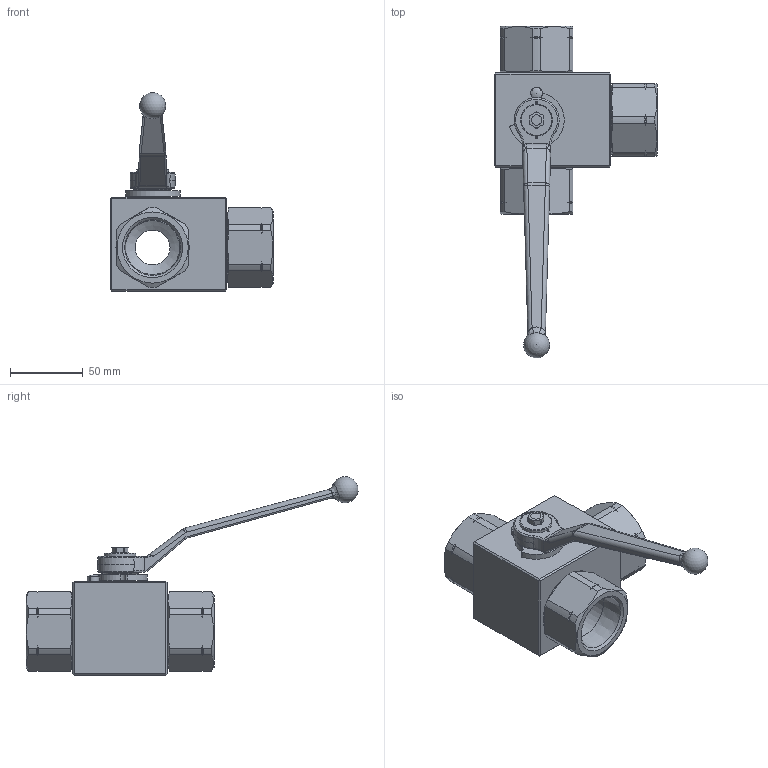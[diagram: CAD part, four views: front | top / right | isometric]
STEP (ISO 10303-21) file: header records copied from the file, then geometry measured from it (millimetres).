
FILE_DESCRIPTION( ( 'Unknown' ), '1' );
FILE_NAME( 'H:/PISTER/3D-MODELLE/BK3-Edelstahl stp/BK3-Edelst DN25 5_4 NPT.stp', 'Unknown', ( 'Unknown' ), ( 'Unknown' ), 'PSStep 14.0', 'Unknown', ' ' );
FILE_SCHEMA( ( 'AUTOMOTIVE_DESIGN { 1 0 10303 214 1 1 1 1 }' ) );
Length unit declared in the file: millimetre
Products named in the file (12): Assem1; 58-28740-10-oa0; 10-025-001-oa2; 56-032-125-oa6; 06-025-009-oa8; 58-0440-007; 58-0933-248; Griff_SW14; 04-025-045-oa9; 04-025-045-oa10; 04-025-045-oa11; 01-025-084-oa12
Assembly tree (11 placements, depth 2):
  Assem1
    58-28740-10-oa0
    10-025-001-oa2
    56-032-125-oa6
    06-025-009-oa8
    58-0440-007
    58-0933-248
    Griff_SW14
    04-025-045-oa9
    04-025-045-oa10
    04-025-045-oa11
    01-025-084-oa12
Bounding box: 112.25 x 228.68 x 136.9 mm (x, y, z)
Volume: 341416.7 mm3; surface area: 93219.9 mm2
Topology: 11 solids, 11 shells, 393 faces, 1031 edges, 660 vertices
Faces by surface type: plane 131, cylinder 123, cone 69, torus 35, bspline 32, sphere 3
Full cylindrical faces by diameter (mm): 5 x1, 6 x1, 6.6 x1, 7.98 x1, 20 x2, 20.2 x1, 22 x1, 24 x4, 25 x1, 32 x1, 37.368 x3, 39.3 x1, 41.376 x1, 41.5 x1, 43 x1, 43.3 x1, 45 x3, 48 x3, 50.5 x3
Entity records: 17336 total; most frequent: CARTESIAN_POINT 5227, ORIENTED_EDGE 1830, DIRECTION 1725, EDGE_CURVE 915, AXIS2_PLACEMENT_3D 707, VERTEX_POINT 620, EDGE_LOOP 489, FACE_OUTER_BOUND 432
